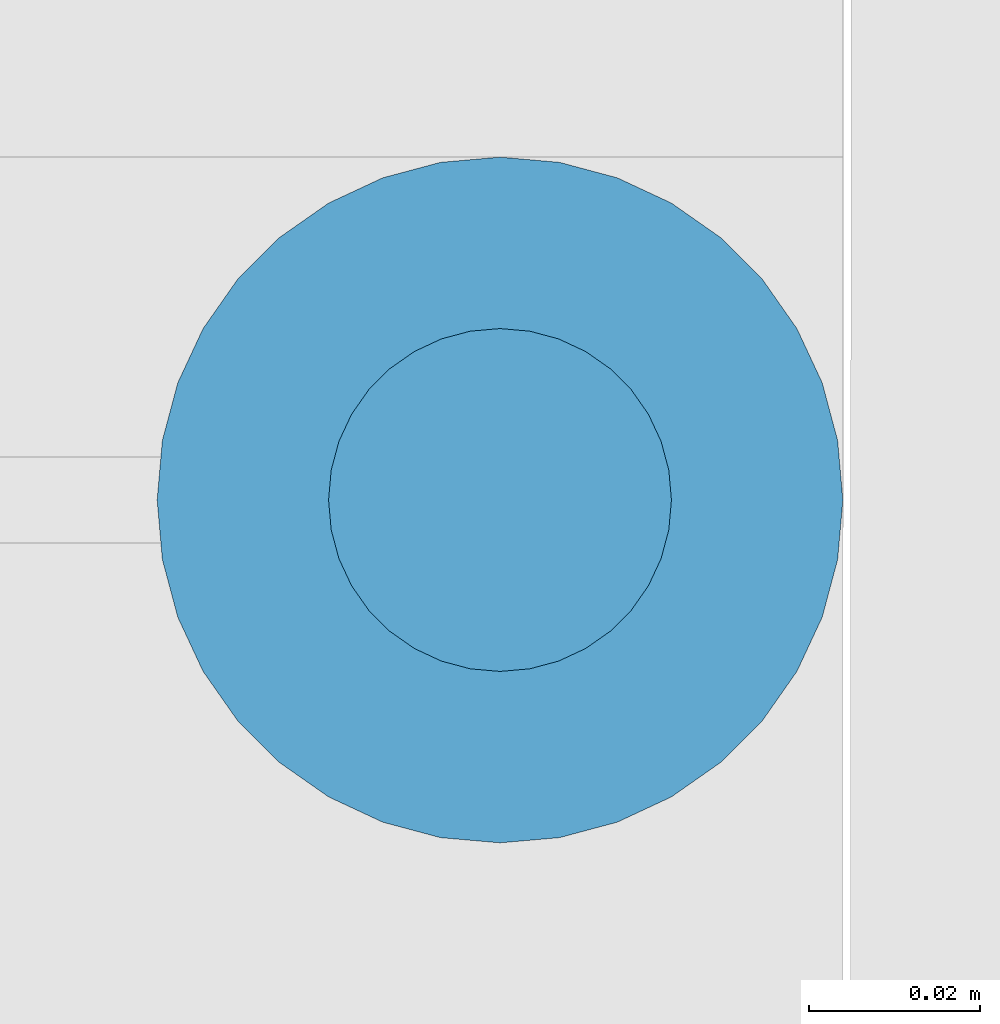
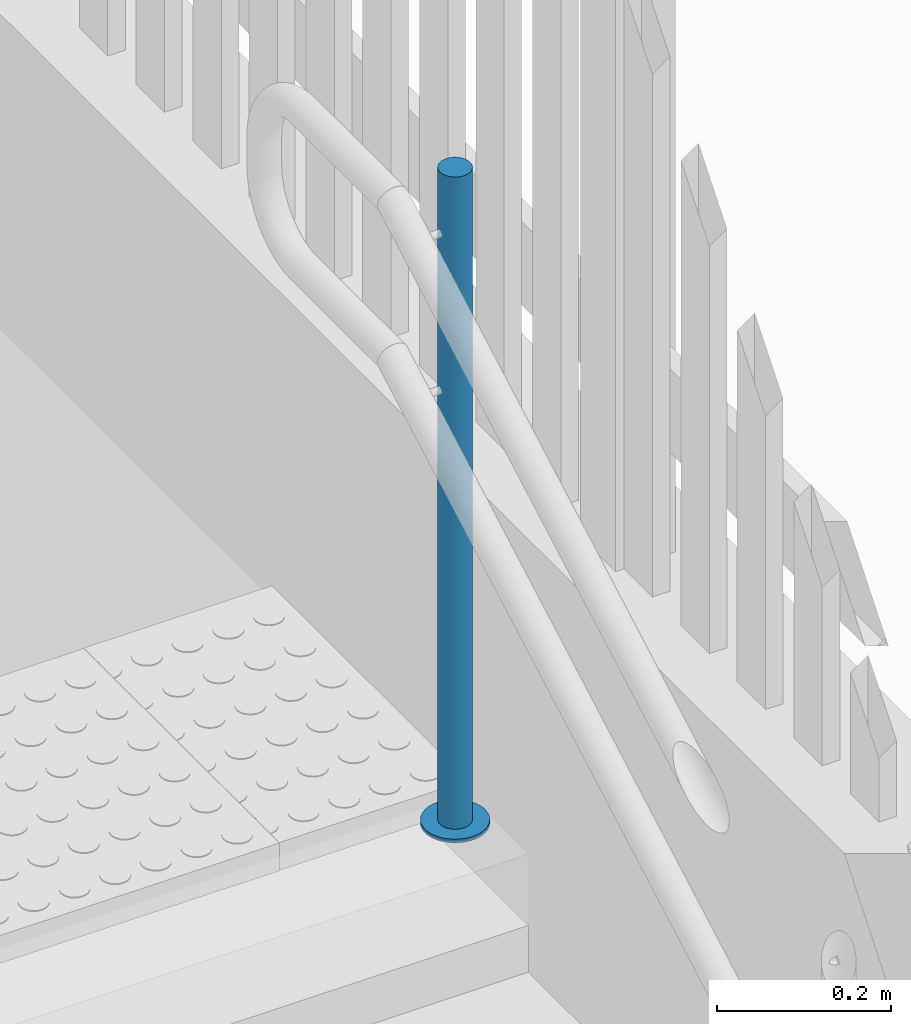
# One storey, part 87 of 237: 2 building element parts, 1 element without a shape of its own.
"""IFC2X3 building model written with IfcOpenShell, lengths in millimetres."""

from ifc_helpers import new_model, entity, si_unit, converted_unit, derived_unit, money_unit, direction, frame, origin_with_axes, place, context, subcontext, project, spatial, faceted_brep, material, type_object, element, aggregate, save


model = new_model("IFC2X3")

# Units and contexts
model_context = context("Model", 3, precision=0.01, world=origin_with_axes(), true_north=direction((0.0, 1.0)))
body_context = subcontext(model_context, "Body", "Model", "MODEL_VIEW")
ifc_project = project(units=[si_unit("LENGTHUNIT", "METRE", prefix="MILLI"), si_unit("AREAUNIT", "SQUARE_METRE"), si_unit("VOLUMEUNIT", "CUBIC_METRE"), converted_unit("PLANEANGLEUNIT", "DEGREE", entity("IfcPlaneAngleMeasure", 0.0174532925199), si_unit("PLANEANGLEUNIT", "RADIAN"), dimensions=[0, 0, 0, 0, 0, 0, 0]), money_unit("USD"), converted_unit("TIMEUNIT", "Year", entity("IfcTimeMeasure", 31556926.0), si_unit("TIMEUNIT", "SECOND"), dimensions=[0, 0, 1, 0, 0, 0, 0]), si_unit("MASSUNIT", "GRAM", prefix="KILO"), si_unit("THERMODYNAMICTEMPERATUREUNIT", "DEGREE_CELSIUS"), si_unit("LUMINOUSINTENSITYUNIT", "LUMEN"), si_unit("ENERGYUNIT", "JOULE", prefix="MEGA"), derived_unit("THERMALCONDUCTANCEUNIT", [(si_unit("POWERUNIT", "WATT"), 1), (si_unit("LENGTHUNIT", "METRE"), -1), (si_unit("THERMODYNAMICTEMPERATUREUNIT", "KELVIN"), -1)]), derived_unit("SPECIFICHEATCAPACITYUNIT", [(si_unit("ENERGYUNIT", "JOULE"), 1), (si_unit("MASSUNIT", "GRAM", prefix="KILO"), -1), (si_unit("THERMODYNAMICTEMPERATUREUNIT", "KELVIN"), -1)]), derived_unit("MASSDENSITYUNIT", [(si_unit("MASSUNIT", "GRAM", prefix="KILO"), 1), (si_unit("VOLUMEUNIT", "CUBIC_METRE"), -1)])], contexts=[model_context])

# Site, building, storey
site_placement = place(None, origin_with_axes())
site = spatial("IfcSite", under=ifc_project, at=site_placement, Name="Local", CompositionType="ELEMENT")
building_placement = place(site_placement, origin_with_axes())
building = spatial("IfcBuilding", under=site, at=building_placement, Name="Construção", CompositionType="ELEMENT")
storey_placement = place(building_placement, origin_with_axes())
storey = spatial("IfcBuildingStorey", under=building, at=storey_placement, Name="Pavimento Térreo", CompositionType="ELEMENT", Elevation=0.0)

# Railing, building element parts
railing_type = type_object("IfcRailingType", Name="Tipo de Guarda-Corpo", PredefinedType="NOTDEFINED")
railing_placement = place(storey_placement, frame((42107.6477557, 12539.1370974, -3113.60448569), z_axis=(0.0, 0.0, 1.0), x_axis=(1.0, 0.0, 0.0)))
railing = element("IfcRailing", 1, at=railing_placement, inside=storey, type_object=railing_type, Name="Guarda-Corpo - 001", PredefinedType="NOTDEFINED")
ifc_material_1 = material(Name="Aço - Inoxidável")
building_element_part_1_placement = place(railing_placement, origin_with_axes())
building_element_part_1 = element("IfcBuildingElementPart", 2, at=building_element_part_1_placement, material=ifc_material_1, Name="Aço - Inoxidável", context=body_context, shape_type="Brep", body=[
    faceted_brep([(34.4924919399, 2510.08357256, 1502.15213222), (34.7963368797, 2513.55653612, 1502.15213222), (34.7963368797, 2513.55653612, 2417.15213222), (34.4924919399, 2510.08357256, 2417.15213222), (34.4924919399, 2517.02949967, 1502.15213222), (33.5901892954, 2506.71613325, 1502.15213222), (32.1168449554, 2503.55653612, 1502.15213222), (30.117225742, 2500.70078392, 1502.15213222), (27.6520890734, 2498.23564725, 1502.15213222), (24.7963368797, 2496.23602804, 1502.15213222), (21.6367397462, 2494.7626837, 1502.15213222), (18.269300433, 2493.86038105, 1502.15213222), (14.7963368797, 2493.55653612, 1502.15213222), (11.3233733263, 2493.86038105, 1502.15213222), (7.95593401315, 2494.7626837, 1502.15213222), (4.79633687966, 2496.23602804, 1502.15213222), (1.94058468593, 2498.23564725, 1502.15213222), (-0.524551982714, 2500.70078392, 1502.15213222), (-2.52417119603, 2503.55653612, 1502.15213222), (-3.99751553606, 2506.71613325, 1502.15213222), (-4.89981818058, 2510.08357256, 1502.15213222), (-5.20366312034, 2513.55653612, 1502.15213222), (-4.89981818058, 2517.02949967, 1502.15213222), (-3.99751553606, 2520.39693898, 1502.15213222), (-2.52417119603, 2523.55653612, 1502.15213222), (-0.524551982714, 2526.41228831, 1502.15213222), (1.94058468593, 2528.87742498, 1502.15213222), (4.79633687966, 2530.87704419, 1502.15213222), (7.95593401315, 2532.35038853, 1502.15213222), (11.3233733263, 2533.25269118, 1502.15213222), (14.7963368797, 2533.55653612, 1502.15213222), (18.269300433, 2533.25269118, 1502.15213222), (21.6367397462, 2532.35038853, 1502.15213222), (24.7963368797, 2530.87704419, 1502.15213222), (27.6520890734, 2528.87742498, 1502.15213222), (30.117225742, 2526.41228831, 1502.15213222), (32.1168449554, 2523.55653612, 1502.15213222), (33.5901892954, 2520.39693898, 1502.15213222), (34.4924919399, 2517.02949967, 2417.15213222), (11.3233733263, 2493.86038105, 2417.15213222), (14.7963368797, 2493.55653612, 2417.15213222), (18.269300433, 2493.86038105, 2417.15213222), (21.6367397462, 2494.7626837, 2417.15213222), (24.7963368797, 2496.23602804, 2417.15213222), (27.6520890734, 2498.23564725, 2417.15213222), (30.117225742, 2500.70078392, 2417.15213222), (32.1168449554, 2503.55653612, 2417.15213222), (33.5901892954, 2506.71613325, 2417.15213222), (33.5901892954, 2520.39693898, 2417.15213222), (32.1168449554, 2523.55653612, 2417.15213222), (30.117225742, 2526.41228831, 2417.15213222), (27.6520890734, 2528.87742498, 2417.15213222), (24.7963368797, 2530.87704419, 2417.15213222), (21.6367397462, 2532.35038853, 2417.15213222), (18.269300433, 2533.25269118, 2417.15213222), (14.7963368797, 2533.55653612, 2417.15213222), (11.3233733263, 2533.25269118, 2417.15213222), (7.95593401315, 2532.35038853, 2417.15213222), (4.79633687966, 2530.87704419, 2417.15213222), (1.94058468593, 2528.87742498, 2417.15213222), (-0.524551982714, 2526.41228831, 2417.15213222), (-2.52417119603, 2523.55653612, 2417.15213222), (-3.99751553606, 2520.39693898, 2417.15213222), (-4.89981818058, 2517.02949967, 2417.15213222), (-5.20366312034, 2513.55653612, 2417.15213222), (-4.89981818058, 2510.08357256, 2417.15213222), (-3.99751553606, 2506.71613325, 2417.15213222), (-2.52417119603, 2503.55653612, 2417.15213222), (-0.524551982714, 2500.70078392, 2417.15213222), (1.94058468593, 2498.23564725, 2417.15213222), (4.79633687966, 2496.23602804, 2417.15213222), (7.95593401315, 2494.7626837, 2417.15213222)], [[[0, 1, 2, 3]], [[4, 1, 0, 5, 6, 7, 8, 9, 10, 11, 12, 13, 14, 15, 16, 17, 18, 19, 20, 21, 22, 23, 24, 25, 26, 27, 28, 29, 30, 31, 32, 33, 34, 35, 36, 37]], [[1, 4, 38, 2]], [[39, 40, 41, 42, 43, 44, 45, 46, 47, 3, 2, 38, 48, 49, 50, 51, 52, 53, 54, 55, 56, 57, 58, 59, 60, 61, 62, 63, 64, 65, 66, 67, 68, 69, 70, 71]], [[5, 0, 3, 47]], [[6, 5, 47, 46]], [[7, 6, 46, 45]], [[8, 7, 45, 44]], [[9, 8, 44, 43]], [[10, 9, 43, 42]], [[11, 10, 42, 41]], [[12, 11, 41, 40]], [[13, 12, 40, 39]], [[14, 13, 39, 71]], [[15, 14, 71, 70]], [[16, 15, 70, 69]], [[17, 16, 69, 68]], [[18, 17, 68, 67]], [[19, 18, 67, 66]], [[20, 19, 66, 65]], [[21, 20, 65, 64]], [[22, 21, 64, 63]], [[23, 22, 63, 62]], [[24, 23, 62, 61]], [[25, 24, 61, 60]], [[26, 25, 60, 59]], [[27, 26, 59, 58]], [[28, 27, 58, 57]], [[29, 28, 57, 56]], [[30, 29, 56, 55]], [[31, 30, 55, 54]], [[32, 31, 54, 53]], [[33, 32, 53, 52]], [[34, 33, 52, 51]], [[35, 34, 51, 50]], [[36, 35, 50, 49]], [[37, 36, 49, 48]], [[4, 37, 48, 38]]]),
])
ifc_material_2 = material(Name="Alumínio")
building_element_part_2_placement = place(railing_placement, origin_with_axes())
building_element_part_2 = element("IfcBuildingElementPart", 3, at=building_element_part_2_placement, material=ifc_material_2, Name="Alumínio", context=body_context, shape_type="Brep", body=[
    faceted_brep([(14.7963368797, 2553.55653612, 1497.15213222), (7.85040977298, 2552.94884624, 1497.15213222), (7.85040977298, 2552.94884624, 1502.15213222), (14.7963368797, 2553.55653612, 1502.15213222), (21.7422639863, 2552.94884624, 1497.15213222), (28.4771426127, 2551.14424095, 1497.15213222), (34.7963368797, 2548.19755227, 1497.15213222), (40.5078412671, 2544.19831384, 1497.15213222), (45.4381146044, 2539.2680405, 1497.15213222), (49.437353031, 2533.55653612, 1497.15213222), (52.3840417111, 2527.23734185, 1497.15213222), (54.1886470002, 2520.50246322, 1497.15213222), (54.7963368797, 2513.55653612, 1497.15213222), (54.1886470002, 2506.61060901, 1497.15213222), (52.3840417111, 2499.87573038, 1497.15213222), (49.437353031, 2493.55653612, 1497.15213222), (45.4381146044, 2487.84503173, 1497.15213222), (40.5078412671, 2482.91475839, 1497.15213222), (34.7963368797, 2478.91551996, 1497.15213222), (28.4771426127, 2475.96883128, 1497.15213222), (21.7422639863, 2474.16422599, 1497.15213222), (14.7963368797, 2473.55653612, 1497.15213222), (7.85040977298, 2474.16422599, 1497.15213222), (1.11553114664, 2475.96883128, 1497.15213222), (-5.20366312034, 2478.91551996, 1497.15213222), (-10.9151675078, 2482.91475839, 1497.15213222), (-15.8454408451, 2487.84503173, 1497.15213222), (-19.8446792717, 2493.55653612, 1497.15213222), (-22.7913679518, 2499.87573038, 1497.15213222), (-24.5959732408, 2506.61060901, 1497.15213222), (-25.2036631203, 2513.55653612, 1497.15213222), (-24.5959732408, 2520.50246322, 1497.15213222), (-22.7913679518, 2527.23734185, 1497.15213222), (-19.8446792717, 2533.55653612, 1497.15213222), (-15.8454408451, 2539.2680405, 1497.15213222), (-10.9151675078, 2544.19831384, 1497.15213222), (-5.20366312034, 2548.19755227, 1497.15213222), (1.11553114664, 2551.14424095, 1497.15213222), (1.11553114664, 2551.14424095, 1502.15213222), (-5.20366312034, 2548.19755227, 1502.15213222), (-10.9151675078, 2544.19831384, 1502.15213222), (-15.8454408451, 2539.2680405, 1502.15213222), (-19.8446792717, 2533.55653612, 1502.15213222), (-22.7913679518, 2527.23734185, 1502.15213222), (-24.5959732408, 2520.50246322, 1502.15213222), (-25.2036631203, 2513.55653612, 1502.15213222), (-24.5959732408, 2506.61060901, 1502.15213222), (-22.7913679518, 2499.87573038, 1502.15213222), (-19.8446792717, 2493.55653612, 1502.15213222), (-15.8454408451, 2487.84503173, 1502.15213222), (-10.9151675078, 2482.91475839, 1502.15213222), (-5.20366312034, 2478.91551996, 1502.15213222), (1.11553114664, 2475.96883128, 1502.15213222), (7.85040977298, 2474.16422599, 1502.15213222), (14.7963368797, 2473.55653612, 1502.15213222), (21.7422639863, 2474.16422599, 1502.15213222), (28.4771426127, 2475.96883128, 1502.15213222), (34.7963368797, 2478.91551996, 1502.15213222), (40.5078412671, 2482.91475839, 1502.15213222), (45.4381146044, 2487.84503173, 1502.15213222), (49.437353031, 2493.55653612, 1502.15213222), (52.3840417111, 2499.87573038, 1502.15213222), (54.1886470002, 2506.61060901, 1502.15213222), (54.7963368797, 2513.55653612, 1502.15213222), (54.1886470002, 2520.50246322, 1502.15213222), (52.3840417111, 2527.23734185, 1502.15213222), (49.437353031, 2533.55653612, 1502.15213222), (45.4381146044, 2539.2680405, 1502.15213222), (40.5078412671, 2544.19831384, 1502.15213222), (34.7963368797, 2548.19755227, 1502.15213222), (28.4771426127, 2551.14424095, 1502.15213222), (21.7422639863, 2552.94884624, 1502.15213222)], [[[0, 1, 2, 3]], [[0, 4, 5, 6, 7, 8, 9, 10, 11, 12, 13, 14, 15, 16, 17, 18, 19, 20, 21, 22, 23, 24, 25, 26, 27, 28, 29, 30, 31, 32, 33, 34, 35, 36, 37, 1]], [[1, 37, 38, 2]], [[3, 2, 38, 39, 40, 41, 42, 43, 44, 45, 46, 47, 48, 49, 50, 51, 52, 53, 54, 55, 56, 57, 58, 59, 60, 61, 62, 63, 64, 65, 66, 67, 68, 69, 70, 71]], [[4, 0, 3, 71]], [[5, 4, 71, 70]], [[6, 5, 70, 69]], [[7, 6, 69, 68]], [[8, 7, 68, 67]], [[9, 8, 67, 66]], [[10, 9, 66, 65]], [[11, 10, 65, 64]], [[12, 11, 64, 63]], [[13, 12, 63, 62]], [[14, 13, 62, 61]], [[15, 14, 61, 60]], [[16, 15, 60, 59]], [[17, 16, 59, 58]], [[18, 17, 58, 57]], [[19, 18, 57, 56]], [[20, 19, 56, 55]], [[21, 20, 55, 54]], [[22, 21, 54, 53]], [[23, 22, 53, 52]], [[24, 23, 52, 51]], [[25, 24, 51, 50]], [[26, 25, 50, 49]], [[27, 26, 49, 48]], [[28, 27, 48, 47]], [[29, 28, 47, 46]], [[30, 29, 46, 45]], [[31, 30, 45, 44]], [[32, 31, 44, 43]], [[33, 32, 43, 42]], [[34, 33, 42, 41]], [[35, 34, 41, 40]], [[36, 35, 40, 39]], [[37, 36, 39, 38]]]),
])
aggregate(railing, [building_element_part_1, building_element_part_2])

save(model, "model.ifc")
